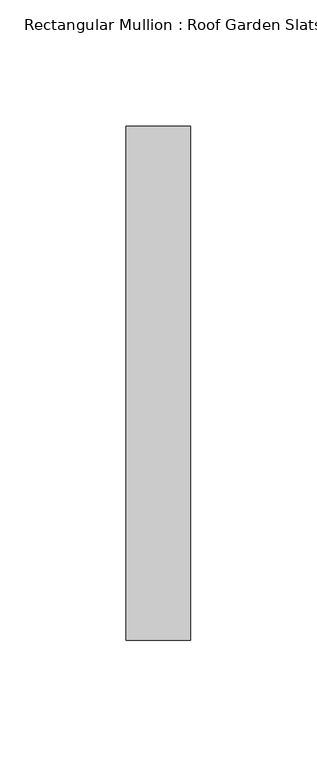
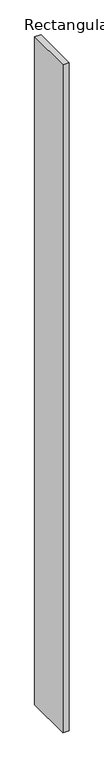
"""IFC4 building model written with IfcOpenShell, lengths in millimetres: member geometry, Rectangular Mullion : Roof Garden Slats."""

from ifc_helpers import new_model, si_unit, frame, origin, place, context, project, spatial, polyline, outline, extrude, source, transform, mapped, element, save


def rectangular_mullion_roof_garden_slats_4fde8c48(model_context):
    return source(origin(), model_context, "Body", "SweptSolid", [
        extrude(outline(polyline([(12.7, 139.7), (12.7, -63.5), (-12.7, -63.5), (-12.7, 139.7), (12.7, 139.7)])), frame((0.0, 0.0, -2945.9046313), z_axis=(0.0, 0.0, 1.0), x_axis=(1.0, 0.0, 0.0)), (0.0, 0.0, 1.0), 2945.9046313),
    ])


if __name__ == "__main__":
    model = new_model("IFC4")
    model_context = context("Model", 3, world=origin())
    ifc_project = project(units=[si_unit("LENGTHUNIT", "METRE", prefix="MILLI")], contexts=[model_context])
    site = spatial("IfcSite", under=ifc_project)
    building = spatial("IfcBuilding", under=site)
    placement = place(None, origin())
    rectangular_mullion_roof_garden_slats_shape = rectangular_mullion_roof_garden_slats_4fde8c48(model_context)
    element("IfcMember", 1, ObjectType="Rectangular Mullion : Roof Garden Slats", at=placement, inside=building, context=model_context, shape_type="MappedRepresentation", body=[
        mapped(rectangular_mullion_roof_garden_slats_shape, transform((0.0, 0.0, 0.0), x_axis=(1.0, 0.0, 0.0), y_axis=(0.0, 1.0, 0.0), z_axis=(0.0, 0.0, 1.0))),
    ])
    save(model, "model.ifc")
